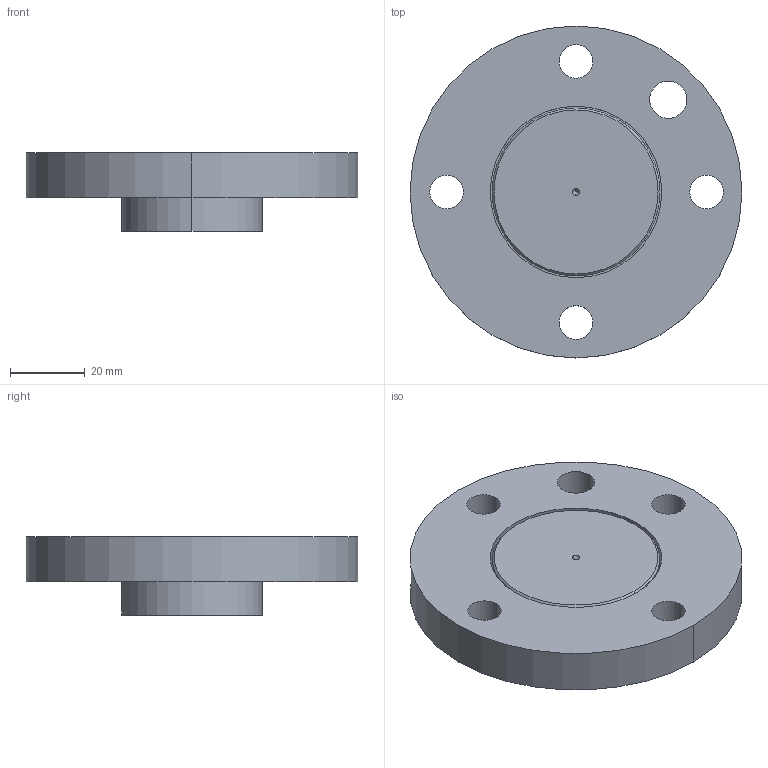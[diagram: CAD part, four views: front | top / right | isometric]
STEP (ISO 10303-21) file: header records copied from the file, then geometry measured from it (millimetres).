
FILE_DESCRIPTION((''),'2;1');
FILE_NAME('THRUST_PIECE_C2_500N-10KN','2018-03-14T',('esche'),(''),'CREO PARAMETRIC BY PTC INC, 2017170','CREO PARAMETRIC BY PTC INC, 2017170','');
FILE_SCHEMA(('CONFIG_CONTROL_DESIGN'));
Length unit declared in the file: millimetre
Products named in the file (1): THRUST_PIECE_C2_500N-10KN
Bounding box: 89 x 89 x 21 mm (x, y, z)
Volume: 79332.1 mm3; surface area: 21840.2 mm2
Topology: 1 solids, 1 shells, 57 faces, 137 edges, 84 vertices
Faces by surface type: bspline 57
Entity records: 2577 total; most frequent: CARTESIAN_POINT 1304, ORIENTED_EDGE 266, DIRECTION 199, EDGE_CURVE 133, VERTEX_POINT 84, AXIS2_PLACEMENT_3D 77, CIRCLE 77, EDGE_LOOP 75
